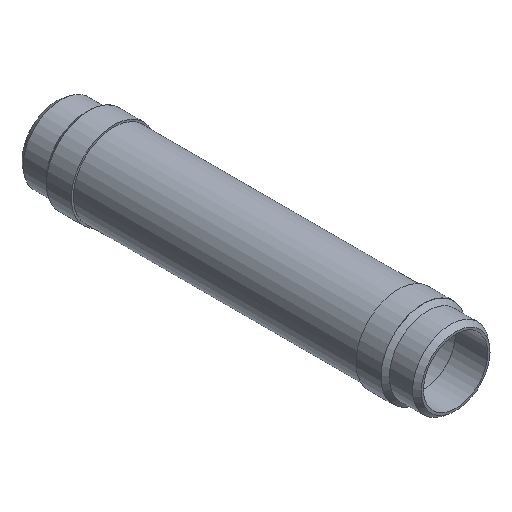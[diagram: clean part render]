
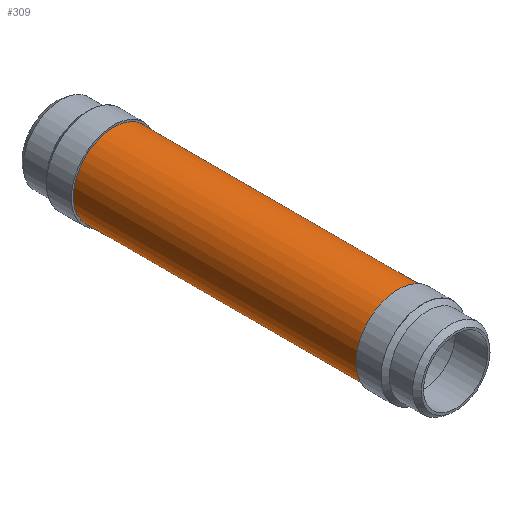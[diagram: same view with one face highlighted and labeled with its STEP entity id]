
A CAD part, isometric view. The second image highlights one B-rep face of the part: STEP entity #309.
In plain terms, the highlighted cylindrical face has radius 25.756 mm (diameter 51.511 mm), a full revolution.
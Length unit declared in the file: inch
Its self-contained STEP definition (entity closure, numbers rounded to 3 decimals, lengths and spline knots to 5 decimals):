
#37=CYLINDRICAL_SURFACE('',#362,1.014);
#60=FACE_BOUND('',#131,.T.);
#84=FACE_OUTER_BOUND('',#130,.T.);
#130=EDGE_LOOP('',(#250));
#131=EDGE_LOOP('',(#251));
#156=CIRCLE('',#361,1.014);
#157=CIRCLE('',#363,1.014);
#180=VERTEX_POINT('',#530);
#181=VERTEX_POINT('',#533);
#204=EDGE_CURVE('',#180,#180,#156,.T.);
#205=EDGE_CURVE('',#181,#181,#157,.T.);
#250=ORIENTED_EDGE('',*,*,#204,.T.);
#251=ORIENTED_EDGE('',*,*,#205,.T.);
#309=ADVANCED_FACE('',(#84,#60),#37,.T.);
#361=AXIS2_PLACEMENT_3D('',#531,#455,#456);
#362=AXIS2_PLACEMENT_3D('',#532,#457,#458);
#363=AXIS2_PLACEMENT_3D('',#534,#459,#460);
#455=DIRECTION('center_axis',(0.,1.,0.));
#456=DIRECTION('ref_axis',(-1.,0.,0.026));
#457=DIRECTION('center_axis',(0.,1.,0.));
#458=DIRECTION('ref_axis',(-1.,0.,0.026));
#459=DIRECTION('center_axis',(0.,-1.,0.));
#460=DIRECTION('ref_axis',(-1.,0.,0.026));
#530=CARTESIAN_POINT('',(1.01366,0.8125,-0.02623));
#531=CARTESIAN_POINT('Origin',(0.,0.8125,0.));
#532=CARTESIAN_POINT('Origin',(0.,5.,0.));
#533=CARTESIAN_POINT('',(1.01366,9.1875,-0.02623));
#534=CARTESIAN_POINT('Origin',(0.,9.1875,0.));
